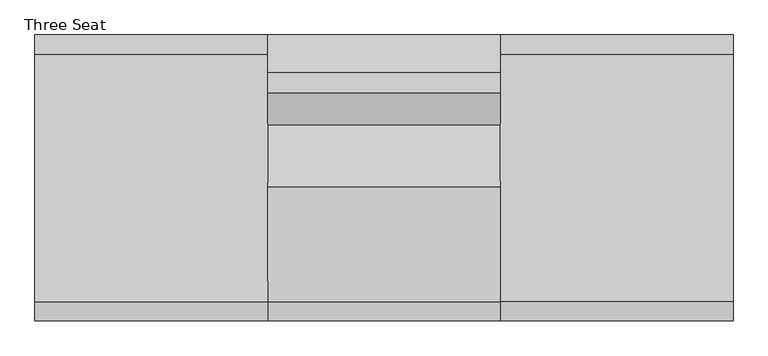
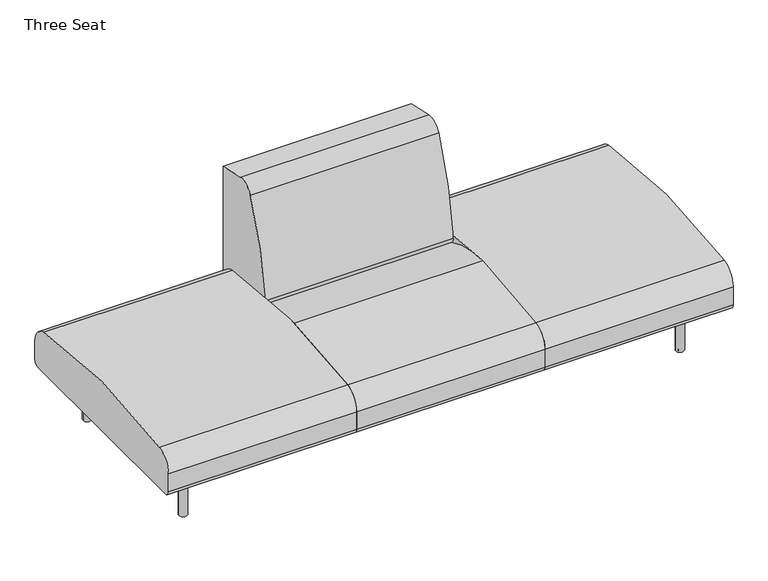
"""IFC4 building model written with IfcOpenShell, lengths in millimetres: furniture geometry, Coalesse_AM_Seating_LoungeChair_Sistema_LegBase_ThreeSeat : Three Seat."""

from ifc_helpers import new_model, si_unit, point, frame, frame_2d, origin, origin_with_axes, place, context, project, spatial, polyline, circle_curve, trimmed, segment, composite_curve, outline, extrude, source, transform, mapped, element, save


def three_seat_9ff78ec4(model_context):
    return source(origin(), model_context, "Body", "SweptSolid", [
        extrude(outline(composite_curve([segment(trimmed(circle_curve(frame_2d((-438.9184381, 226.822)), 22.352), [point((-438.9184381, 204.47))], [point((-461.2704381, 226.822))], False, "CARTESIAN"), True, "CONTINUOUS"), segment(polyline([(-461.2704381, 226.822), (-461.2704381, 301.4421993)]), True, "CONTINUOUS"), segment(trimmed(circle_curve(frame_2d((-385.0704381, 301.4421993)), 76.2), [point((-461.2704381, 301.4421993))], [point((-398.9279534, 376.3715612))], False, "CARTESIAN"), True, "CONTINUOUS"), segment(trimmed(circle_curve(frame_2d((-0.3717831, -1778.6727457)), 2191.5891461), [point((-398.9279534, 376.3715612))], [point((397.0993513, 376.5719464))], False, "CARTESIAN"), True, "CONTINUOUS"), segment(trimmed(circle_curve(frame_2d((383.2795619, 301.6356173)), 76.2), [point((397.0993513, 376.5719464))], [point((459.4795619, 301.6356173))], False, "CARTESIAN"), True, "CONTINUOUS"), segment(polyline([(459.4795619, 301.6356173), (459.4795619, 226.7871991)]), True, "CONTINUOUS"), segment(trimmed(circle_curve(frame_2d((437.1623628, 226.7871991)), 22.3171991), [point((459.4795619, 226.7871991))], [point((437.1623628, 204.47))], False, "CARTESIAN"), True, "CONTINUOUS"), segment(polyline([(437.1623628, 204.47), (-438.9184381, 204.47)]), True, "CONTINUOUS")], self_intersect=False)), frame((-374.8034773, 0.0, 0.0), z_axis=(1.0, 0.0, 0.0), x_axis=(0.0, 1.0, 0.0)), (0.0, 0.0, 1.0), 749.3),
        extrude(outline(composite_curve([segment(polyline([(459.4795619, 775.8234697), (459.4795619, 228.1929806)]), True, "CONTINUOUS"), segment(trimmed(circle_curve(frame_2d((191.495971, 228.1929806)), 267.983591), [point((459.4795619, 228.1929806))], [point((458.9860775, 211.937276))], False, "CARTESIAN"), True, "CONTINUOUS"), segment(polyline([(458.9860775, 211.937276), (183.8457951, 360.6719742)]), True, "CONTINUOUS"), segment(trimmed(circle_curve(frame_2d((195.9245701, 383.0161724)), 25.4), [point((183.8457951, 360.6719742))], [point((170.6161698, 385.1713698))], False, "CARTESIAN"), True, "CONTINUOUS"), segment(trimmed(circle_curve(frame_2d((1327.5544182, 286.6495247)), 1161.1256023), [point((170.6161698, 385.1713698))], [point((271.1088001, 768.4537592))], False, "CARTESIAN"), True, "CONTINUOUS"), segment(trimmed(circle_curve(frame_2d((326.5730192, 743.158661)), 60.96), [point((271.1088001, 768.4537592))], [point((339.9143278, 802.6408523))], False, "CARTESIAN"), True, "CONTINUOUS"), segment(polyline([(339.9143278, 802.6408523), (459.4795619, 775.8234697)]), True, "CONTINUOUS")], self_intersect=False)), frame((374.4965227, 0.0, 0.0), z_axis=(1.0, 0.0, 0.0), x_axis=(0.0, 1.0, 0.0)), (0.0, 0.0, 1.0), 749.3),
        extrude(outline(composite_curve([segment(trimmed(circle_curve(frame_2d((-438.9184381, 226.822)), 22.352), [point((-438.9184381, 204.47))], [point((-461.2704381, 226.822))], False, "CARTESIAN"), True, "CONTINUOUS"), segment(polyline([(-461.2704381, 226.822), (-461.2704381, 301.4421993)]), True, "CONTINUOUS"), segment(trimmed(circle_curve(frame_2d((-385.0704381, 301.4421993)), 76.2), [point((-461.2704381, 301.4421993))], [point((-398.9277015, 376.3716077))], False, "CARTESIAN"), True, "CONTINUOUS"), segment(trimmed(circle_curve(frame_2d((2.2103559, -1792.6740646)), 2205.8265729), [point((-398.9277015, 376.3716077))], [point((-31.1968175, 412.8995185))], False, "CARTESIAN"), True, "CONTINUOUS"), segment(trimmed(circle_curve(frame_2d((-24.5128424, -28.3829182)), 441.333054), [point((-31.1968175, 412.8995185))], [point((184.5757008, 360.2774035))], False, "CARTESIAN"), True, "CONTINUOUS"), segment(polyline([(184.5757008, 360.2774035), (458.9860775, 211.937276)]), True, "CONTINUOUS"), segment(trimmed(circle_curve(frame_2d((442.3266309, 226.7871991)), 22.3171991), [point((458.9860775, 211.937276))], [point((442.3266309, 204.47))], False, "CARTESIAN"), True, "CONTINUOUS"), segment(polyline([(442.3266309, 204.47), (-438.9184381, 204.47)]), True, "CONTINUOUS")], self_intersect=False)), frame((374.4965227, 0.0, 0.0), z_axis=(1.0, 0.0, 0.0), x_axis=(0.0, 1.0, 0.0)), (0.0, 0.0, 1.0), 749.3),
        extrude(outline(composite_curve([segment(trimmed(circle_curve(frame_2d((-438.9184381, 226.822)), 22.352), [point((-438.9184381, 204.47))], [point((-461.2704381, 226.822))], False, "CARTESIAN"), True, "CONTINUOUS"), segment(polyline([(-461.2704381, 226.822), (-461.2704381, 301.4421993)]), True, "CONTINUOUS"), segment(trimmed(circle_curve(frame_2d((-385.0704381, 301.4421993)), 76.2), [point((-461.2704381, 301.4421993))], [point((-398.9279534, 376.3715612))], False, "CARTESIAN"), True, "CONTINUOUS"), segment(trimmed(circle_curve(frame_2d((-0.3717831, -1778.6727457)), 2191.5891461), [point((-398.9279534, 376.3715612))], [point((397.0993513, 376.5719464))], False, "CARTESIAN"), True, "CONTINUOUS"), segment(trimmed(circle_curve(frame_2d((383.2795619, 301.6356173)), 76.2), [point((397.0993513, 376.5719464))], [point((459.4795619, 301.6356173))], False, "CARTESIAN"), True, "CONTINUOUS"), segment(polyline([(459.4795619, 301.6356173), (459.4795619, 226.7871991)]), True, "CONTINUOUS"), segment(trimmed(circle_curve(frame_2d((437.1623628, 226.7871991)), 22.3171991), [point((459.4795619, 226.7871991))], [point((437.1623628, 204.47))], False, "CARTESIAN"), True, "CONTINUOUS"), segment(polyline([(437.1623628, 204.47), (-438.9184381, 204.47)]), True, "CONTINUOUS")], self_intersect=False)), frame((1123.7965227, 0.0, 0.0), z_axis=(1.0, 0.0, 0.0), x_axis=(0.0, 1.0, 0.0)), (0.0, 0.0, 1.0), 749.3),
        extrude(outline(composite_curve([segment(trimmed(circle_curve(frame_2d((1738.4765227, 335.9943389)), 6.096), [point((1744.5725227, 335.9943389))], [point((1732.3805227, 335.9943389))], False, "CARTESIAN"), True, "CONTINUOUS"), segment(trimmed(circle_curve(frame_2d((1738.4765227, 335.9943389)), 6.096), [point((1732.3805227, 335.9943389))], [point((1744.5725227, 335.9943389))], False, "CARTESIAN"), True, "CONTINUOUS")], self_intersect=False)), origin_with_axes(), (0.0, 0.0, 1.0), 4.3662291),
        extrude(outline(composite_curve([segment(trimmed(circle_curve(frame_2d((1738.4765227, -327.2630889)), 6.096), [point((1744.5725227, -327.2630889))], [point((1732.3805227, -327.2630889))], False, "CARTESIAN"), True, "CONTINUOUS"), segment(trimmed(circle_curve(frame_2d((1738.4765227, -327.2630889)), 6.096), [point((1732.3805227, -327.2630889))], [point((1744.5725227, -327.2630889))], False, "CARTESIAN"), True, "CONTINUOUS")], self_intersect=False)), origin_with_axes(), (0.0, 0.0, 1.0), 4.3662291),
        extrude(outline(composite_curve([segment(polyline([(157.0399209, 1751.056375), (201.7356243, 1751.056375)]), True, "CONTINUOUS"), segment(trimmed(circle_curve(frame_2d((201.7356243, 1748.008375)), 3.048), [point((201.7356243, 1751.056375))], [point((204.7836243, 1748.008375))], False, "CARTESIAN"), True, "CONTINUOUS"), segment(polyline([(204.7836243, 1748.008375), (204.7836243, 1728.666199)]), True, "CONTINUOUS"), segment(trimmed(circle_curve(frame_2d((201.7356243, 1728.666199)), 3.048), [point((204.7836243, 1728.666199))], [point((201.7356243, 1725.618199))], False, "CARTESIAN"), True, "CONTINUOUS"), segment(polyline([(201.7356243, 1725.618199), (157.1249936, 1725.618199)]), True, "CONTINUOUS"), segment(trimmed(circle_curve(frame_2d((157.1249936, 1728.7512718)), 3.1330728), [point((157.1249936, 1725.618199))], [point((153.9919209, 1728.7512718))], False, "CARTESIAN"), True, "CONTINUOUS"), segment(polyline([(153.9919209, 1728.7512718), (153.9919209, 1748.008375)]), True, "CONTINUOUS"), segment(trimmed(circle_curve(frame_2d((157.0399209, 1748.008375)), 3.048), [point((153.9919209, 1748.008375))], [point((157.0399209, 1751.056375))], False, "CARTESIAN"), True, "CONTINUOUS")], self_intersect=False)), frame((0.0, 222.3519802, 0.0), z_axis=(0.0, 1.0, 0.0), x_axis=(0.0, 0.0, 1.0)), (0.0, 0.0, 1.0), 92.6273161),
        extrude(outline(composite_curve([segment(polyline([(157.0399209, 1751.056375), (201.7356243, 1751.056375)]), True, "CONTINUOUS"), segment(trimmed(circle_curve(frame_2d((201.7356243, 1748.008375)), 3.048), [point((201.7356243, 1751.056375))], [point((204.7836243, 1748.008375))], False, "CARTESIAN"), True, "CONTINUOUS"), segment(polyline([(204.7836243, 1748.008375), (204.7836243, 1728.666199)]), True, "CONTINUOUS"), segment(trimmed(circle_curve(frame_2d((201.7356243, 1728.666199)), 3.048), [point((204.7836243, 1728.666199))], [point((201.7356243, 1725.618199))], False, "CARTESIAN"), True, "CONTINUOUS"), segment(polyline([(201.7356243, 1725.618199), (157.1249936, 1725.618199)]), True, "CONTINUOUS"), segment(trimmed(circle_curve(frame_2d((157.1249936, 1728.7512718)), 3.1330728), [point((157.1249936, 1725.618199))], [point((153.9919209, 1728.7512718))], False, "CARTESIAN"), True, "CONTINUOUS"), segment(polyline([(153.9919209, 1728.7512718), (153.9919209, 1748.008375)]), True, "CONTINUOUS"), segment(trimmed(circle_curve(frame_2d((157.0399209, 1748.008375)), 3.048), [point((153.9919209, 1748.008375))], [point((157.0399209, 1751.056375))], False, "CARTESIAN"), True, "CONTINUOUS")], self_intersect=False)), frame((0.0, -314.9792963, 0.0), z_axis=(0.0, 1.0, 0.0), x_axis=(0.0, 0.0, 1.0)), (0.0, 0.0, 1.0), 92.6273161),
        extrude(outline(composite_curve([segment(trimmed(circle_curve(frame_2d((176.3356606, 1715.8259944)), 3.048), [point((179.3836606, 1715.8259944))], [point((176.3356606, 1712.7779944))], False, "CARTESIAN"), True, "CONTINUOUS"), segment(polyline([(176.3356606, 1712.7779944), (157.0399209, 1712.7779944)]), True, "CONTINUOUS"), segment(trimmed(circle_curve(frame_2d((157.0399209, 1715.8259944)), 3.048), [point((157.0399209, 1712.7779944))], [point((153.9919209, 1715.8259944))], False, "CARTESIAN"), True, "CONTINUOUS"), segment(polyline([(153.9919209, 1715.8259944), (153.9919209, 1760.5135501)]), True, "CONTINUOUS"), segment(trimmed(circle_curve(frame_2d((157.056462, 1760.5135501)), 3.0645412), [point((153.9919209, 1760.5135501))], [point((157.056462, 1763.5780913))], False, "CARTESIAN"), True, "CONTINUOUS"), segment(polyline([(157.056462, 1763.5780913), (176.3356606, 1763.5780913)]), True, "CONTINUOUS"), segment(trimmed(circle_curve(frame_2d((176.3356606, 1760.5300913)), 3.048), [point((176.3356606, 1763.5780913))], [point((179.3836606, 1760.5300913))], False, "CARTESIAN"), True, "CONTINUOUS"), segment(polyline([(179.3836606, 1760.5300913), (179.3836606, 1715.8259944)]), True, "CONTINUOUS")], self_intersect=False)), frame((0.0, -222.3519802, 0.0), z_axis=(0.0, 1.0, 0.0), x_axis=(0.0, 0.0, 1.0)), (0.0, 0.0, 1.0), 444.7039604),
        extrude(outline(composite_curve([segment(trimmed(circle_curve(frame_2d((1738.4765227, 332.3095741)), 16.51), [point((1754.9865227, 332.3095741))], [point((1721.9665227, 332.3095741))], False, "CARTESIAN"), True, "CONTINUOUS"), segment(trimmed(circle_curve(frame_2d((1738.4765227, 332.3095741)), 16.51), [point((1721.9665227, 332.3095741))], [point((1754.9865227, 332.3095741))], False, "CARTESIAN"), True, "CONTINUOUS")], self_intersect=False)), frame((0.0, 0.0, 4.3662291), z_axis=(0.0, 0.0, 1.0), x_axis=(1.0, 0.0, 0.0)), (0.0, 0.0, 1.0), 200.1037709),
        extrude(outline(composite_curve([segment(trimmed(circle_curve(frame_2d((1738.0796477, -327.5470741)), 16.51), [point((1754.5896477, -327.5470741))], [point((1721.5696477, -327.5470741))], False, "CARTESIAN"), True, "CONTINUOUS"), segment(trimmed(circle_curve(frame_2d((1738.0796477, -327.5470741)), 16.51), [point((1721.5696477, -327.5470741))], [point((1754.5896477, -327.5470741))], False, "CARTESIAN"), True, "CONTINUOUS")], self_intersect=False)), frame((0.0, 0.0, 4.3662291), z_axis=(0.0, 0.0, 1.0), x_axis=(1.0, 0.0, 0.0)), (0.0, 0.0, 1.0), 200.1037709),
        extrude(outline(composite_curve([segment(trimmed(circle_curve(frame_2d((-240.1834773, 335.9943389)), 6.096), [point((-246.2794773, 335.9943389))], [point((-234.0874773, 335.9943389))], False, "CARTESIAN"), True, "CONTINUOUS"), segment(trimmed(circle_curve(frame_2d((-240.1834773, 335.9943389)), 6.096), [point((-234.0874773, 335.9943389))], [point((-246.2794773, 335.9943389))], False, "CARTESIAN"), True, "CONTINUOUS")], self_intersect=False)), origin_with_axes(), (0.0, 0.0, 1.0), 4.3662291),
        extrude(outline(composite_curve([segment(trimmed(circle_curve(frame_2d((-240.1834773, -327.2630889)), 6.096), [point((-246.2794773, -327.2630889))], [point((-234.0874773, -327.2630889))], False, "CARTESIAN"), True, "CONTINUOUS"), segment(trimmed(circle_curve(frame_2d((-240.1834773, -327.2630889)), 6.096), [point((-234.0874773, -327.2630889))], [point((-246.2794773, -327.2630889))], False, "CARTESIAN"), True, "CONTINUOUS")], self_intersect=False)), origin_with_axes(), (0.0, 0.0, 1.0), 4.3662291),
        extrude(outline(composite_curve([segment(trimmed(circle_curve(frame_2d((157.0399209, -249.7153296)), 3.048), [point((157.0399209, -252.7633296))], [point((153.9919209, -249.7153296))], False, "CARTESIAN"), True, "CONTINUOUS"), segment(polyline([(153.9919209, -249.7153296), (153.9919209, -230.4582264)]), True, "CONTINUOUS"), segment(trimmed(circle_curve(frame_2d((157.1249936, -230.4582264)), 3.1330728), [point((153.9919209, -230.4582264))], [point((157.1249936, -227.3251537))], False, "CARTESIAN"), True, "CONTINUOUS"), segment(polyline([(157.1249936, -227.3251537), (201.7356243, -227.3251537)]), True, "CONTINUOUS"), segment(trimmed(circle_curve(frame_2d((201.7356243, -230.3731537)), 3.048), [point((201.7356243, -227.3251537))], [point((204.7836243, -230.3731537))], False, "CARTESIAN"), True, "CONTINUOUS"), segment(polyline([(204.7836243, -230.3731537), (204.7836243, -249.7153296)]), True, "CONTINUOUS"), segment(trimmed(circle_curve(frame_2d((201.7356243, -249.7153296)), 3.048), [point((204.7836243, -249.7153296))], [point((201.7356243, -252.7633296))], False, "CARTESIAN"), True, "CONTINUOUS"), segment(polyline([(201.7356243, -252.7633296), (157.0399209, -252.7633296)]), True, "CONTINUOUS")], self_intersect=False)), frame((0.0, 222.3519802, 0.0), z_axis=(0.0, 1.0, 0.0), x_axis=(0.0, 0.0, 1.0)), (0.0, 0.0, 1.0), 92.6273161),
        extrude(outline(composite_curve([segment(trimmed(circle_curve(frame_2d((157.0399209, -249.7153296)), 3.048), [point((157.0399209, -252.7633296))], [point((153.9919209, -249.7153296))], False, "CARTESIAN"), True, "CONTINUOUS"), segment(polyline([(153.9919209, -249.7153296), (153.9919209, -230.4582264)]), True, "CONTINUOUS"), segment(trimmed(circle_curve(frame_2d((157.1249936, -230.4582264)), 3.1330728), [point((153.9919209, -230.4582264))], [point((157.1249936, -227.3251537))], False, "CARTESIAN"), True, "CONTINUOUS"), segment(polyline([(157.1249936, -227.3251537), (201.7356243, -227.3251537)]), True, "CONTINUOUS"), segment(trimmed(circle_curve(frame_2d((201.7356243, -230.3731537)), 3.048), [point((201.7356243, -227.3251537))], [point((204.7836243, -230.3731537))], False, "CARTESIAN"), True, "CONTINUOUS"), segment(polyline([(204.7836243, -230.3731537), (204.7836243, -249.7153296)]), True, "CONTINUOUS"), segment(trimmed(circle_curve(frame_2d((201.7356243, -249.7153296)), 3.048), [point((204.7836243, -249.7153296))], [point((201.7356243, -252.7633296))], False, "CARTESIAN"), True, "CONTINUOUS"), segment(polyline([(201.7356243, -252.7633296), (157.0399209, -252.7633296)]), True, "CONTINUOUS")], self_intersect=False)), frame((0.0, -314.9792963, 0.0), z_axis=(0.0, 1.0, 0.0), x_axis=(0.0, 0.0, 1.0)), (0.0, 0.0, 1.0), 92.6273161),
        extrude(outline(composite_curve([segment(polyline([(179.3836606, -217.532949), (179.3836606, -262.2370459)]), True, "CONTINUOUS"), segment(trimmed(circle_curve(frame_2d((176.3356606, -262.2370459)), 3.048), [point((179.3836606, -262.2370459))], [point((176.3356606, -265.2850459))], False, "CARTESIAN"), True, "CONTINUOUS"), segment(polyline([(176.3356606, -265.2850459), (157.056462, -265.2850459)]), True, "CONTINUOUS"), segment(trimmed(circle_curve(frame_2d((157.056462, -262.2205047)), 3.0645412), [point((157.056462, -265.2850459))], [point((153.9919209, -262.2205047))], False, "CARTESIAN"), True, "CONTINUOUS"), segment(polyline([(153.9919209, -262.2205047), (153.9919209, -217.532949)]), True, "CONTINUOUS"), segment(trimmed(circle_curve(frame_2d((157.0399209, -217.532949)), 3.048), [point((153.9919209, -217.532949))], [point((157.0399209, -214.484949))], False, "CARTESIAN"), True, "CONTINUOUS"), segment(polyline([(157.0399209, -214.484949), (176.3356606, -214.484949)]), True, "CONTINUOUS"), segment(trimmed(circle_curve(frame_2d((176.3356606, -217.532949)), 3.048), [point((176.3356606, -214.484949))], [point((179.3836606, -217.532949))], False, "CARTESIAN"), True, "CONTINUOUS")], self_intersect=False)), frame((0.0, -222.3519802, 0.0), z_axis=(0.0, 1.0, 0.0), x_axis=(0.0, 0.0, 1.0)), (0.0, 0.0, 1.0), 444.7039604),
        extrude(outline(composite_curve([segment(trimmed(circle_curve(frame_2d((-240.1834773, 332.3095741)), 16.51), [point((-256.6934773, 332.3095741))], [point((-223.6734773, 332.3095741))], False, "CARTESIAN"), True, "CONTINUOUS"), segment(trimmed(circle_curve(frame_2d((-240.1834773, 332.3095741)), 16.51), [point((-223.6734773, 332.3095741))], [point((-256.6934773, 332.3095741))], False, "CARTESIAN"), True, "CONTINUOUS")], self_intersect=False)), frame((0.0, 0.0, 4.3662291), z_axis=(0.0, 0.0, 1.0), x_axis=(1.0, 0.0, 0.0)), (0.0, 0.0, 1.0), 200.1037709),
        extrude(outline(composite_curve([segment(trimmed(circle_curve(frame_2d((-239.7866023, -327.5470741)), 16.51), [point((-256.2966023, -327.5470741))], [point((-223.2766023, -327.5470741))], False, "CARTESIAN"), True, "CONTINUOUS"), segment(trimmed(circle_curve(frame_2d((-239.7866023, -327.5470741)), 16.51), [point((-223.2766023, -327.5470741))], [point((-256.2966023, -327.5470741))], False, "CARTESIAN"), True, "CONTINUOUS")], self_intersect=False)), frame((0.0, 0.0, 4.3662291), z_axis=(0.0, 0.0, 1.0), x_axis=(1.0, 0.0, 0.0)), (0.0, 0.0, 1.0), 200.1037709),
    ])


if __name__ == "__main__":
    model = new_model("IFC4")
    model_context = context("Model", 3, world=origin())
    ifc_project = project(units=[si_unit("LENGTHUNIT", "METRE", prefix="MILLI")], contexts=[model_context])
    site = spatial("IfcSite", under=ifc_project)
    building = spatial("IfcBuilding", under=site)
    placement = place(None, origin())
    three_seat_shape = three_seat_9ff78ec4(model_context)
    element("IfcFurniture", 1, ObjectType="Coalesse_AM_Seating_LoungeChair_Sistema_LegBase_ThreeSeat : Three Seat", at=placement, inside=building, context=model_context, shape_type="MappedRepresentation", body=[
        mapped(three_seat_shape, transform((0.0, 0.0, 0.0), x_axis=(1.0, 0.0, 0.0), y_axis=(0.0, 1.0, 0.0), z_axis=(0.0, 0.0, 1.0))),
    ])
    save(model, "model.ifc")
